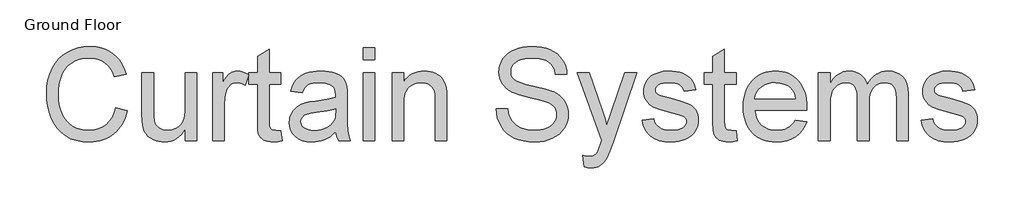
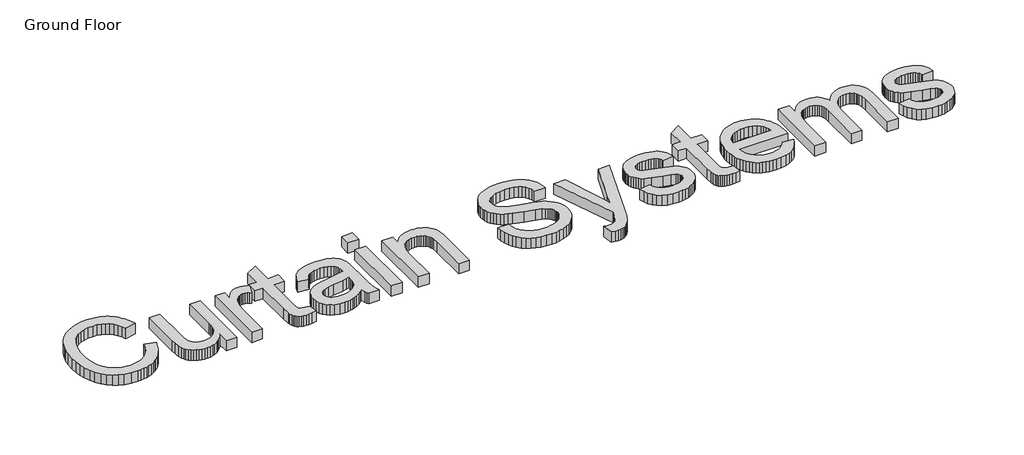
# One storey, part 3 of 8: 1 proxy.
"""IFC4 building model written with IfcOpenShell, lengths in millimetres."""

import ifcopenshell
import ifcopenshell.guid

model = None  # the IFC model being written
_history = None  # IfcOwnerHistory: only IFC2X3 demands one
_inside = {}  # id of a spatial element -> (the spatial element, [elements in it])
_under = {}  # id of a project, library or spatial element -> (it, [spatial elements below it])
_declared = {}  # id of a project -> (the project, [libraries it declares])
_typed = {}  # id of a type object -> (the type object, [elements of that type])
_made_of = {}  # id of a material, layer set ... -> (it, [elements and type objects made of it])


def new_model(schema):
    """Start an empty IFC model of exactly this schema.

    Asked for "IFC4X3", IfcOpenShell would pick the latest addendum, in which some entities
    have other attributes; the version numbers below select the first issue.
    IFC2X3 requires an IfcOwnerHistory on every rooted entity: one is made here for all.
    """
    global model, _history
    if schema == "IFC4X3":
        model = ifcopenshell.file(schema_version=(4, 3, 0, 0))
    else:
        model = ifcopenshell.file(schema=schema)
    _inside.clear()
    _under.clear()
    _declared.clear()
    _typed.clear()
    _made_of.clear()
    _history = None
    if model.schema == "IFC2X3":
        org = make("IfcOrganization", Name="unknown")
        user = make(
            "IfcPersonAndOrganization",
            ThePerson=make("IfcPerson", FamilyName="unknown"),
            TheOrganization=org,
        )
        app = make(
            "IfcApplication",
            ApplicationDeveloper=org,
            Version="unknown",
            ApplicationFullName="unknown",
            ApplicationIdentifier="unknown",
        )
        _history = make(
            "IfcOwnerHistory",
            OwningUser=user,
            OwningApplication=app,
            ChangeAction="ADDED",
            CreationDate=0,
        )
    return model


def make(cls, **values):
    """One entity of the class cls with the attributes given. An attribute that is None is left unset."""
    return model.create_entity(
        cls, **{name: value for name, value in values.items() if value is not None}
    )


def rooted(cls, **values):
    """An entity with a GlobalId (a new one), such as an element, a storey or a relation."""
    return make(cls, GlobalId=ifcopenshell.guid.new(), OwnerHistory=_history, **values)


def si_unit(unit_type, name, prefix=None):
    """IfcSIUnit, for example si_unit("LENGTHUNIT", "METRE", prefix="MILLI")."""
    return make("IfcSIUnit", UnitType=unit_type, Prefix=prefix, Name=name)


def assignment(units):
    """IfcUnitAssignment: the units of a project."""
    return None if units is None else make("IfcUnitAssignment", Units=units)


def point(xyz):
    """IfcCartesianPoint."""
    return None if xyz is None else make("IfcCartesianPoint", Coordinates=xyz)


def direction(xyz):
    """IfcDirection."""
    return None if xyz is None else make("IfcDirection", DirectionRatios=xyz)


def frame(location, z_axis=None, x_axis=None):
    """IfcAxis2Placement3D, a coordinate frame: its origin and axes. An axis left out is left unset."""
    return make(
        "IfcAxis2Placement3D",
        Location=point(location),
        Axis=direction(z_axis),
        RefDirection=direction(x_axis),
    )


def origin():
    """The frame at (0, 0, 0) with its axes left unset."""
    return frame((0.0, 0.0, 0.0))


def origin_with_axes():
    """The frame at (0, 0, 0) with the z axis (0, 0, 1) and the x axis (1, 0, 0) written out."""
    return frame((0.0, 0.0, 0.0), z_axis=(0.0, 0.0, 1.0), x_axis=(1.0, 0.0, 0.0))


def place(relative_to, where):
    """IfcLocalPlacement: puts the frame where relative to a parent placement (None: the world)."""
    return make(
        "IfcLocalPlacement", PlacementRelTo=relative_to, RelativePlacement=where
    )


def context(
    kind, dimensions, precision=None, world=None, true_north=None, identifier=None
):
    """IfcGeometricRepresentationContext, for example the 3D "Model" context."""
    return make(
        "IfcGeometricRepresentationContext",
        ContextIdentifier=identifier,
        ContextType=kind,
        CoordinateSpaceDimension=dimensions,
        Precision=precision,
        WorldCoordinateSystem=world,
        TrueNorth=true_north,
    )


def project(units=None, contexts=None):
    """IfcProject with its units and contexts."""
    return rooted(
        "IfcProject",
        Name="project",
        RepresentationContexts=contexts,
        UnitsInContext=assignment(units),
    )


def spatial(cls, under=None, at=None, **own):
    """A site, building, storey or space (cls), placed at a placement, below another one or the project."""
    s = rooted(cls, ObjectPlacement=at, **own)
    if under is not None:
        _under.setdefault(under.id(), (under, []))[1].append(s)
    return s


def polyline(points):
    """IfcPolyline through the points."""
    return make("IfcPolyline", Points=[point(p) for p in points])


def outline(outer, holes=None, kind="AREA"):
    """IfcArbitraryClosedProfileDef: a profile drawn as a closed curve; with holes, ...WithVoids."""
    if holes is None:
        return make("IfcArbitraryClosedProfileDef", ProfileType=kind, OuterCurve=outer)
    return make(
        "IfcArbitraryProfileDefWithVoids",
        ProfileType=kind,
        OuterCurve=outer,
        InnerCurves=holes,
    )


def extrude(swept, where, along, depth):
    """IfcExtrudedAreaSolid: the profile swept, set in the frame where, extruded along a direction by depth."""
    return make(
        "IfcExtrudedAreaSolid",
        SweptArea=swept,
        Position=where,
        ExtrudedDirection=direction(along),
        Depth=depth,
    )


def shape(context_of_items, identifier, shape_type, items):
    """IfcShapeRepresentation: the items that make up one representation, for example the "Body"."""
    return make(
        "IfcShapeRepresentation",
        ContextOfItems=context_of_items,
        RepresentationIdentifier=identifier,
        RepresentationType=shape_type,
        Items=items,
    )


def made_of(thing, what):
    """Note that an element or type object is made of a material, layer set ...; save() writes the relation."""
    if what is not None:
        _made_of.setdefault(what.id(), (what, []))[1].append(thing)
    return thing


def element(
    cls,
    number,
    at=None,
    inside=None,
    cuts=None,
    type_object=None,
    material=None,
    context=None,
    identifier="Body",
    shape_type=None,
    held_by="IfcProductDefinitionShape",
    body=None,
    shapes=None,
    **own,
):
    """One element of the class cls, such as IfcWall. Its Tag is "e" and its number.

    at: its placement. inside: the storey or other place that contains it. cuts: it is an
    opening in that element (IfcRelVoidsElement). A single representation is given by context,
    identifier, shape_type and body (its items); several are given by shapes. held_by: the class
    of the entity that holds the representations. save() writes the other relations.
    """
    e = rooted(cls, Tag="e%d" % number, ObjectPlacement=at, **own)
    if body is not None:
        shapes = [shape(context, identifier, shape_type, body)]
    if shapes is not None:
        e.Representation = make(held_by, Representations=shapes)
    if inside is not None:
        _inside.setdefault(inside.id(), (inside, []))[1].append(e)
    if cuts is not None:
        rooted(
            "IfcRelVoidsElement", RelatingBuildingElement=cuts, RelatedOpeningElement=e
        )
    if type_object is not None:
        _typed.setdefault(type_object.id(), (type_object, []))[1].append(e)
    return made_of(e, material)


def aggregate(whole, parts):
    """IfcRelAggregates: a whole, such as a stair, and the parts it consists of."""
    return rooted("IfcRelAggregates", RelatingObject=whole, RelatedObjects=parts)


def save(model, path):
    """Write the relations noted so far, then the file.

    IfcRelAggregates (storeys below a building ...), IfcRelContainedInSpatialStructure (elements
    in a storey), IfcRelDefinesByType, IfcRelAssociatesMaterial and IfcRelDeclares: one each for
    every whole, place, type object, material and project.
    """
    for whole, parts in _under.values():
        aggregate(whole, parts)
    for where, things in _inside.values():
        rooted(
            "IfcRelContainedInSpatialStructure",
            RelatedElements=things,
            RelatingStructure=where,
        )
    for kind, things in _typed.values():
        rooted("IfcRelDefinesByType", RelatedObjects=things, RelatingType=kind)
    for what, things in _made_of.values():
        rooted("IfcRelAssociatesMaterial", RelatedObjects=things, RelatingMaterial=what)
    for by, libraries in _declared.values():
        rooted("IfcRelDeclares", RelatingContext=by, RelatedDefinitions=libraries)
    model.write(path)


model = new_model("IFC4")

# Units and contexts
model_context = context("Model", 3, world=origin())
ifc_project = project(units=[si_unit("LENGTHUNIT", "METRE", prefix="MILLI")], contexts=[model_context])

# Site, building, storey
site = spatial("IfcSite", under=ifc_project)
building = spatial("IfcBuilding", under=site)
storey = spatial("IfcBuildingStorey", under=building, Name="Ground Floor", Elevation=0.0)

# Proxy
placement = place(None, origin())
element("IfcBuildingElementProxy", 1, Name="1200mm Arial", ObjectType="1200mm Arial", at=placement, inside=storey, context=model_context, shape_type="SweptSolid", body=[
    extrude(outline(polyline([(-73278.3441207, -15688.8792454), (-73131.4350298, -15726.7542454), (-73160.5048096, -15818.1151296), (-73178.6577304, -15859.4714196), (-73199.2226718, -15897.9449414), (-73222.1996338, -15933.5356952), (-73247.5886164, -15966.2436808), (-73275.3896196, -15996.0688983), (-73305.6026434, -16023.0113477), (-73337.9004062, -16046.9185964), (-73371.9556264, -16067.638212), (-73407.7683039, -16085.1701945), (-73445.3384389, -16099.5145437), (-73484.6660312, -16110.6712598), (-73525.7510809, -16118.6403427), (-73568.593588, -16123.4217925), (-73613.1935525, -16125.0156091), (-73702.7790461, -16120.1915679), (-73783.595186, -16105.7194443), (-73855.6419722, -16081.5992383), (-73918.9194048, -16047.83095), (-73974.2972457, -16004.9167099), (-74022.645257, -15953.3586488), (-74063.9634389, -15893.1567667), (-74098.2517911, -15824.3110636), (-74125.1785489, -15749.7984571), (-74144.4119474, -15672.5958647), (-74155.9519864, -15592.7032866), (-74159.7986661, -15510.1207227), (-74155.4498558, -15421.5125906), (-74142.4034247, -15338.7506943), (-74120.6593728, -15261.8350338), (-74090.2177002, -15190.7656091), (-74051.75987, -15126.7170473), (-74005.9673451, -15070.8639755), (-73952.8401256, -15023.2063939), (-73892.3782116, -14983.7443022), (-73826.6349587, -14952.800499), (-73757.663723, -14930.6977823), (-73685.4645042, -14917.4361524), (-73610.0373025, -14913.0156091), (-73526.0111129, -14918.7363122), (-73448.9609531, -14935.8984216), (-73413.0518844, -14948.7700036), (-73378.8868231, -14964.5019372), (-73346.4657693, -14983.0942223), (-73315.788723, -15004.5468591), (-73287.115716, -15028.5953321), (-73260.7067805, -15054.9751261), (-73236.5619163, -15083.6862412), (-73214.6811235, -15114.7286772), (-73177.7117521, -15183.8075125), (-73149.7986661, -15262.2116318), (-73296.707757, -15297.2173136), (-73319.8416349, -15239.4453853), (-73347.6381548, -15190.084146), (-73380.0973167, -15149.1335956), (-73417.2191207, -15116.5937341), (-73459.2187656, -15091.8010316), (-73506.3114502, -15074.0919585), (-73558.4971747, -15063.4665146), (-73615.7759389, -15059.9247), (-73681.6805908, -15063.8520792), (-73741.9542059, -15075.634217), (-73796.596784, -15095.2711133), (-73845.6083252, -15122.7627681), (-73888.3701328, -15156.871788), (-73924.2635099, -15196.3607795), (-73953.2884566, -15241.2297426), (-73975.444973, -15291.4786772), (-73991.8269864, -15344.8300622), (-74003.5284247, -15399.0063761), (-74010.5492876, -15454.007619), (-74012.8895752, -15509.8337909), (-74010.1188899, -15579.9886204), (-74001.8068337, -15645.5525409), (-73987.9534069, -15706.5255522), (-73968.5586093, -15762.9076545), (-73943.3086093, -15813.5780203), (-73911.8895752, -15857.4158221), (-73874.301507, -15894.42106), (-73830.5444048, -15924.5937341), (-73782.7433572, -15948.0055771), (-73733.0234531, -15964.7283221), (-73681.3846924, -15974.7619691), (-73627.8270752, -15978.1065181), (-73563.9578458, -15973.5514755), (-73505.1995894, -15959.8863477), (-73451.552306, -15937.1111346), (-73403.0159957, -15905.2258363), (-73360.7383856, -15864.3739187), (-73325.8672031, -15814.6988477), (-73298.4024481, -15756.2006233), (-73278.3441207, -15688.8792454)])), origin_with_axes(), (0.0, 0.0, 1.0), 150.0),
    extrude(outline(polyline([(-72396.8895752, -16106.6519727), (-72396.8895752, -15958.3082227), (-72422.3727073, -15997.3802664), (-72450.0436945, -16031.2427042), (-72479.9025369, -16059.8955363), (-72511.9492343, -16083.3387625), (-72546.1837869, -16101.5723828), (-72582.6061945, -16114.5963974), (-72621.2164573, -16122.4108061), (-72662.0145752, -16125.0156091), (-72698.410083, -16123.1864187), (-72733.5681974, -16117.6988477), (-72767.4889183, -16108.552896), (-72800.1722457, -16095.7485636), (-72830.1745539, -16080.1825125), (-72856.0522173, -16062.7514045), (-72877.8052357, -16043.4552397), (-72895.4336093, -16022.2940181), (-72909.8429666, -15998.9628747), (-72921.938936, -15973.1569443), (-72939.1907116, -15914.1207227), (-72945.6466775, -15858.45595), (-72947.7986661, -15777.5411772), (-72947.7986661, -15243.5610636), (-72800.8895752, -15243.5610636), (-72800.8895752, -15708.3906091), (-72798.6658536, -15801.3565181), (-72791.9946889, -15858.1690181), (-72783.1984353, -15884.647445), (-72770.5824019, -15908.131021), (-72754.1465887, -15928.6197461), (-72733.8909957, -15946.1136204), (-72710.4253529, -15960.1105132), (-72684.3593906, -15970.1082937), (-72655.6931086, -15976.106962), (-72624.426507, -15978.1065181), (-72592.2273771, -15976.0621289), (-72561.0504417, -15969.9289613), (-72530.8957009, -15959.7070153), (-72501.7631548, -15945.3962909), (-72475.2309282, -15927.561685), (-72452.8771462, -15906.7680948), (-72434.7018089, -15883.0155203), (-72420.7049161, -15856.3039613), (-72410.2857045, -15824.9297603), (-72402.8434105, -15787.1892596), (-72398.378034, -15743.0824592), (-72396.8895752, -15692.6093591), (-72396.8895752, -15243.5610636), (-72249.9804843, -15243.5610636), (-72249.9804843, -16106.6519727), (-72396.8895752, -16106.6519727)])), origin_with_axes(), (0.0, 0.0, 1.0), 150.0),
    extrude(outline(polyline([(-72047.9804843, -16106.6519727), (-72047.9804843, -15243.5610636), (-71919.4350298, -15243.5610636), (-71919.4350298, -15371.2457227), (-71895.2251576, -15330.4296716), (-71871.9478139, -15297.2173136), (-71849.6029985, -15271.6086488), (-71828.1907116, -15253.6036772), (-71806.7425582, -15241.1759429), (-71784.2901434, -15232.2989897), (-71760.8334673, -15226.9728179), (-71736.3725298, -15225.1974272), (-71699.9321889, -15228.0308789), (-71663.2049161, -15236.5312341), (-71626.1907116, -15250.6984926), (-71588.8895752, -15270.5326545), (-71637.9549161, -15402.2343591), (-71663.7787798, -15389.0534287), (-71689.6026434, -15379.6384784), (-71715.426507, -15373.9895082), (-71741.2503707, -15372.1065181), (-71763.7655518, -15373.9177752), (-71785.1150724, -15379.3515466), (-71805.2989325, -15388.4078321), (-71824.317132, -15401.0866318), (-71841.4523416, -15416.9754812), (-71855.9872315, -15435.6619159), (-71867.9218018, -15457.1459358), (-71877.2560525, -15481.4275409), (-71887.6752641, -15521.5262625), (-71895.1175582, -15563.4900409), (-71901.0713934, -15653.0127681), (-71901.0713934, -16106.6519727), (-72047.9804843, -16106.6519727)])), origin_with_axes(), (0.0, 0.0, 1.0), 150.0),
    extrude(outline(polyline([(-71184.8895752, -15984.1320863), (-71166.5259389, -16110.95595), (-71224.701365, -16121.5006943), (-71276.4208252, -16125.0156091), (-71313.9192272, -16123.4912838), (-71346.9343195, -16118.9183079), (-71375.4661022, -16111.2966815), (-71399.5145752, -16100.6264045), (-71419.7074019, -16087.4813406), (-71436.6722457, -16072.4353534), (-71450.4091065, -16055.4884429), (-71460.9179843, -16036.6406091), (-71468.7010099, -16011.3726758), (-71474.2603139, -15975.165467), (-71478.707757, -15869.9332227), (-71478.707757, -15390.4701545), (-71588.8895752, -15390.4701545), (-71588.8895752, -15243.5610636), (-71478.707757, -15243.5610636), (-71478.707757, -15033.8139045), (-71331.7986661, -14947.4474272), (-71331.7986661, -15243.5610636), (-71184.8895752, -15243.5610636), (-71184.8895752, -15390.4701545), (-71331.7986661, -15390.4701545), (-71331.7986661, -15865.6292454), (-71329.8618764, -15913.9772568), (-71324.051507, -15941.3792454), (-71313.901294, -15956.5507653), (-71298.944973, -15968.2073704), (-71277.7478849, -15975.6317312), (-71248.8753707, -15978.1065181), (-71184.8895752, -15984.1320863)])), origin_with_axes(), (0.0, 0.0, 1.0), 150.0),
    extrude(outline(polyline([(-70487.0713934, -15996.4701545), (-70521.9067095, -16029.1624485), (-70557.2620894, -16056.6541034), (-70593.1375333, -16078.945119), (-70629.5330411, -16096.0354954), (-70666.8610774, -16108.7142951), (-70705.5341065, -16117.7705806), (-70745.5521285, -16123.2043519), (-70786.9151434, -16125.0156091), (-70852.3266313, -16120.6578321), (-70909.6860951, -16107.5845011), (-70958.9935347, -16085.7956162), (-71000.2489502, -16055.2911772), (-71032.8246782, -16018.0079741), (-71056.0930553, -15975.8827966), (-71070.0540816, -15928.9156446), (-71074.707757, -15877.1065181), (-71072.9502997, -15845.9564826), (-71067.6779275, -15816.2052397), (-71058.8906406, -15787.8527894), (-71046.5884389, -15760.8991318), (-71031.4258856, -15735.9360636), (-71014.057544, -15713.5553818), (-70994.483414, -15693.7570863), (-70972.7034957, -15676.5411772), (-70924.104419, -15648.565325), (-70869.8384389, -15628.3366318), (-70816.9712514, -15617.0745579), (-70742.7276434, -15606.2428818), (-70592.5188366, -15583.0014045), (-70534.5227428, -15569.8742738), (-70487.9321889, -15555.7428818), (-70487.0713934, -15523.0326545), (-70489.5999801, -15487.4172426), (-70497.18574, -15457.4687341), (-70509.8286732, -15433.1871289), (-70527.5287798, -15414.5724272), (-70558.1228849, -15395.993592), (-70595.3881548, -15382.7229954), (-70639.3245894, -15374.7606375), (-70689.9321889, -15372.1065181), (-70736.989007, -15373.8729421), (-70777.4463934, -15379.1722142), (-70811.304348, -15388.0043342), (-70838.5628707, -15400.3693022), (-70860.9614857, -15417.2355132), (-70880.2397173, -15439.5713619), (-70896.3975653, -15467.3768484), (-70909.4350298, -15500.6519727), (-71056.3441207, -15482.2883363), (-71045.1627464, -15439.9658931), (-71030.8430553, -15401.9474272), (-71013.3850475, -15368.2329386), (-70992.788723, -15338.8224272), (-70968.1663863, -15313.1240963), (-70938.6303423, -15290.5461488), (-70904.1805908, -15271.0885849), (-70864.817132, -15254.7514045), (-70821.337995, -15241.8215394), (-70774.5412087, -15232.5859216), (-70724.4267734, -15227.0445508), (-70670.9946889, -15225.1974272), (-70618.7641313, -15226.8293519), (-70571.6804133, -15231.7251261), (-70529.7435347, -15239.8847497), (-70492.9534957, -15251.3082227), (-70461.005431, -15265.197516), (-70433.5944758, -15280.7546005), (-70410.7206299, -15297.9794762), (-70392.3838934, -15316.8721431), (-70377.5172386, -15337.8988654), (-70365.0536377, -15361.5259073), (-70347.335598, -15416.58095), (-70341.9556264, -15467.3678818), (-70340.1623025, -15545.1264045), (-70340.1623025, -15727.9019727), (-70338.2972457, -15887.1132653), (-70332.7020752, -15983.127825), (-70321.6552002, -16046.2169585), (-70303.4350298, -16106.6519727), (-70450.3441207, -16106.6519727), (-70463.3995184, -16082.1193022), (-70473.8725298, -16055.5781091), (-70487.0713934, -15996.4701545)]), holes=[polyline([(-70487.0713934, -15702.6519727), (-70531.4740923, -15715.3666389), (-70585.7759389, -15727.1129102), (-70724.0770752, -15747.7002681), (-70800.2933394, -15758.962342), (-70850.4705411, -15771.5156091), (-70883.3601008, -15787.7989897), (-70907.7134389, -15810.2514045), (-70922.7773593, -15837.1512625), (-70927.7986661, -15866.7769727), (-70925.0638472, -15889.6059855), (-70916.8593906, -15910.462342), (-70903.1852961, -15929.3460423), (-70884.0415639, -15946.2570863), (-70859.6075262, -15960.1912127), (-70830.0625156, -15970.1441602), (-70795.4065319, -15976.1159287), (-70755.6395752, -15978.1065181), (-70715.038723, -15975.9096964), (-70676.7333252, -15969.3192312), (-70640.723382, -15958.3351225), (-70607.0088934, -15942.9573704), (-70576.5941207, -15924.4592348), (-70550.4833252, -15904.1139755), (-70528.676507, -15881.9215927), (-70511.1736661, -15857.8820863), (-70501.0055198, -15836.3622), (-70493.7425582, -15810.2514045), (-70489.3847812, -15779.5497), (-70487.9321889, -15744.2570863), (-70487.0713934, -15702.6519727)])]), origin_with_axes(), (0.0, 0.0, 1.0), 150.0),
    extrude(outline(polyline([(-70138.1623025, -16106.6519727), (-70138.1623025, -15243.5610636), (-69991.2532116, -15243.5610636), (-69991.2532116, -16106.6519727), (-70138.1623025, -16106.6519727)])), origin_with_axes(), (0.0, 0.0, 1.0), 150.0),
    extrude(outline(polyline([(-70138.1623025, -15078.2883363), (-70138.1623025, -14931.3792454), (-69991.2532116, -14931.3792454), (-69991.2532116, -15078.2883363), (-70138.1623025, -15078.2883363)])), origin_with_axes(), (0.0, 0.0, 1.0), 150.0),
    extrude(outline(polyline([(-69770.8895752, -16106.6519727), (-69770.8895752, -15243.5610636), (-69623.9804843, -15243.5610636), (-69623.9804843, -15364.0724272), (-69599.7437123, -15331.5235991), (-69572.9424872, -15303.3146147), (-69543.5768089, -15279.4454741), (-69511.6466775, -15259.9161772), (-69477.152093, -15244.7267241), (-69440.0930553, -15233.8771147), (-69400.4695646, -15227.3673491), (-69358.2816207, -15225.1974272), (-69321.3122492, -15226.945918), (-69285.8672031, -15232.1913903), (-69251.9464822, -15240.9338441), (-69219.5500866, -15253.1732795), (-69189.9064431, -15268.2551332), (-69164.2439786, -15285.524842), (-69142.5626931, -15304.9824059), (-69124.8625866, -15326.627825), (-69098.142061, -15376.3746289), (-69080.8185525, -15434.6576545), (-69075.0081832, -15490.3941602), (-69073.0713934, -15576.6889045), (-69073.0713934, -16106.6519727), (-69219.9804843, -16106.6519727), (-69219.9804843, -15596.4872), (-69224.2127286, -15520.5220011), (-69229.503034, -15490.7707582), (-69236.9094616, -15466.5070863), (-69246.9969083, -15446.0721609), (-69260.3302712, -15427.8071573), (-69276.9095504, -15411.7120757), (-69296.7347457, -15397.7869159), (-69319.1243941, -15386.5517419), (-69343.3970326, -15378.5266176), (-69369.5526612, -15373.711543), (-69397.5912798, -15372.1065181), (-69442.2002109, -15375.7110991), (-69483.6349587, -15386.524842), (-69521.8955234, -15404.5477468), (-69556.9819048, -15429.7798136), (-69572.6846969, -15445.8166122), (-69586.2937833, -15465.0903605), (-69597.8091642, -15487.6010583), (-69607.2308394, -15513.3487056), (-69619.7930731, -15574.5548491), (-69623.9804843, -15648.7087909), (-69623.9804843, -16106.6519727), (-69770.8895752, -16106.6519727)])), origin_with_axes(), (0.0, 0.0, 1.0), 150.0),
    extrude(outline(polyline([(-68448.707757, -15702.6519727), (-68301.7986661, -15702.6519727), (-68295.0737016, -15745.4137802), (-68284.9414218, -15784.1764755), (-68271.4018266, -15818.9400586), (-68254.4549161, -15849.7045295), (-68233.2398948, -15877.0885849), (-68206.8959673, -15901.7109216), (-68175.4231335, -15923.5715394), (-68138.8213934, -15942.6704386), (-68098.43574, -15958.1737234), (-68055.6111661, -15969.2474983), (-68010.3476718, -15975.8917632), (-67962.645257, -15978.1065181), (-67920.4483465, -15976.4297603), (-67880.7979559, -15971.3994869), (-67843.6940852, -15963.0156978), (-67809.1367343, -15951.2783931), (-67777.9777322, -15936.6090039), (-67751.0689076, -15919.4289613), (-67728.4102606, -15899.7382653), (-67710.0017911, -15877.5369159), (-67695.753833, -15853.7843413), (-67685.5767201, -15829.4399698), (-67679.4704524, -15804.5038015), (-67677.4350298, -15778.9758363), (-67678.9593551, -15753.5554706), (-67683.5323309, -15729.802896), (-67691.1539573, -15707.7181126), (-67701.8242343, -15687.3011204), (-67717.2109531, -15668.44432), (-67738.9819048, -15651.0401119), (-67767.1370894, -15635.0884961), (-67801.676507, -15620.5894727), (-67879.2556974, -15597.5273278), (-68015.5841775, -15564.4943022), (-68156.001436, -15527.3724983), (-68207.2456654, -15509.4840927), (-68245.8469616, -15492.0440181), (-68285.0759211, -15468.6411417), (-68318.9787087, -15442.6200125), (-68347.5553245, -15413.9806304), (-68370.8057684, -15382.7229954), (-68388.8197066, -15349.1699059), (-68401.6868053, -15313.6441602), (-68409.4070646, -15276.1457582), (-68411.9804843, -15236.6747), (-68408.7973345, -15192.9265643), (-68399.2478849, -15150.631021), (-68383.3321356, -15109.78807), (-68361.0500866, -15070.3977113), (-68332.6528032, -15034.0649698), (-68298.3913508, -15002.3948704), (-68258.2657293, -14975.387413), (-68212.2759389, -14953.0425977), (-68161.9732045, -14935.5307902), (-68108.9087514, -14923.0223562), (-68053.0825795, -14915.5172958), (-67994.4946889, -14913.0156091), (-67930.5806264, -14915.6338619), (-67870.5401434, -14923.4886204), (-67814.37324, -14936.5798846), (-67762.0799161, -14954.9076545), (-67714.6285667, -14978.3105309), (-67672.9875866, -15006.6271147), (-67637.1569758, -15039.8574059), (-67607.1367343, -15078.0014045), (-67583.1599943, -15119.9472497), (-67565.4598877, -15164.5830806), (-67554.0364147, -15211.9088974), (-67548.8895752, -15261.9247), (-67695.7986661, -15261.9247), (-67705.6260809, -15215.0472142), (-67722.770257, -15174.2670295), (-67747.2311945, -15139.584146), (-67779.0088934, -15110.9985636), (-67818.6951505, -15088.6537483), (-67866.8817627, -15072.6931659), (-67923.5687301, -15063.1168164), (-67988.7560525, -15059.9247), (-68056.0236306, -15063.08095), (-68113.4996605, -15072.5497), (-68161.184142, -15088.33095), (-68199.0770752, -15110.4247), (-68227.9495894, -15136.9838264), (-68248.5728139, -15166.1612056), (-68260.9467485, -15197.9568377), (-68265.0713934, -15232.3707227), (-68262.1482755, -15261.9784997), (-68253.3789218, -15288.8245579), (-68238.7633323, -15312.9088974), (-68218.301507, -15334.2315181), (-68186.0934105, -15354.4243448), (-68135.3782116, -15374.8323704), (-68066.1559105, -15395.4555948), (-67978.426507, -15416.2940181), (-67816.4534957, -15455.6754102), (-67759.4616633, -15473.4831162), (-67718.4662798, -15490.0354954), (-67673.4269509, -15515.1240963), (-67634.7180553, -15543.3330806), (-67602.339593, -15574.6624485), (-67576.2915639, -15609.1122), (-67556.2691029, -15646.5030025), (-67541.9673451, -15686.6555238), (-67533.3862904, -15729.5697639), (-67530.5259389, -15775.2457227), (-67533.8166881, -15821.1996467), (-67543.688936, -15865.8085778), (-67560.1426825, -15909.072516), (-67583.1779275, -15950.9914613), (-67612.3911732, -15989.9424556), (-67647.3789218, -16024.3025409), (-67688.1411732, -16054.071717), (-67734.6779275, -16079.2499841), (-67785.6352251, -16099.272445), (-67839.6591065, -16113.5742028), (-67896.7495717, -16122.1552575), (-67956.9066207, -16125.0156091), (-68032.0558572, -16121.931092), (-68100.838794, -16112.6775409), (-68163.255431, -16097.2549556), (-68219.3057684, -16075.6633363), (-68269.3305376, -16047.8668164), (-68313.6704701, -16013.8295295), (-68352.325566, -15973.5514755), (-68385.2958252, -15927.0326545), (-68411.8549516, -15875.7794585), (-68431.2766491, -15821.2982795), (-68443.5609176, -15763.5891176), (-68448.707757, -15702.6519727)])), origin_with_axes(), (0.0, 0.0, 1.0), 150.0),
    extrude(outline(polyline([(-67328.5259389, -16437.1974272), (-67346.8895752, -16295.7400409), (-67306.8625866, -16305.4239897), (-67272.2873025, -16308.6519727), (-67233.0493764, -16304.5990608), (-67202.5628707, -16292.440325), (-67178.8192627, -16273.0365608), (-67159.8100298, -16247.2485636), (-67143.598382, -16209.3018306), (-67119.6395752, -16139.0752681), (-67108.1623025, -16103.4957227), (-67420.3441207, -15243.5610636), (-67265.4009389, -15243.5610636), (-67099.8412798, -15722.7372), (-67069.3547741, -15816.2769727), (-67042.1679843, -15914.4076545), (-66984.4946889, -15745.1178818), (-66814.3441207, -15243.5610636), (-66660.5486661, -15243.5610636), (-66960.9662798, -16127.3110636), (-67005.5841775, -16244.8096431), (-67039.0117343, -16318.9815181), (-67058.3258323, -16351.9248775), (-67078.96699, -16380.1697284), (-67100.9352073, -16403.7160707), (-67124.2304843, -16422.5639045), (-67149.3549516, -16437.0001616), (-67176.81074, -16447.3117738), (-67206.5978494, -16453.4987412), (-67238.7162798, -16455.5610636), (-67281.2539218, -16450.9701545), (-67328.5259389, -16437.1974272)])), origin_with_axes(), (0.0, 0.0, 1.0), 150.0),
    extrude(outline(polyline([(-66593.9804843, -15849.5610636), (-66447.0713934, -15831.1974272), (-66438.1944403, -15864.696717), (-66423.9016491, -15894.0354954), (-66404.1930198, -15919.2137625), (-66379.0685525, -15940.2315181), (-66348.4565141, -15956.8018306), (-66312.2851718, -15968.6377681), (-66270.5545255, -15975.7393306), (-66223.2645752, -15978.1065181), (-66176.0284247, -15975.9365963), (-66135.319973, -15969.4268306), (-66101.1392201, -15958.5772213), (-66073.4861661, -15943.3877681), (-66052.1456122, -15925.2751971), (-66036.9023593, -15905.6562341), (-66027.7564076, -15884.5308789), (-66024.707757, -15861.8991318), (-66027.7743408, -15842.0649698), (-66036.9740923, -15824.4545295), (-66052.3070113, -15809.0678108), (-66073.773098, -15795.9048136), (-66128.7922741, -15777.2542454), (-66224.9861661, -15754.0127681), (-66359.0550582, -15715.2411062), (-66446.210598, -15682.1363477), (-66476.1322066, -15665.5391353), (-66502.198169, -15646.0188051), (-66524.408485, -15623.5753569), (-66542.7631548, -15598.2087909), (-66557.1366455, -15570.6812696), (-66567.4034247, -15541.7549556), (-66573.5634921, -15511.4298491), (-66575.616848, -15479.70595), (-66573.96699, -15450.6989365), (-66569.0174161, -15422.7858505), (-66560.7681264, -15395.9666921), (-66549.2191207, -15370.2414613), (-66534.8187301, -15346.130222), (-66518.0152855, -15324.153038), (-66498.8087869, -15304.3099095), (-66477.1992343, -15286.6008363), (-66436.6342485, -15262.9648278), (-66383.8029275, -15243.1306659), (-66322.7223167, -15229.6807369), (-66257.4094616, -15225.1974272), (-66208.0392556, -15226.9997177), (-66161.7894332, -15232.4065892), (-66118.6599943, -15241.4180416), (-66078.6509389, -15254.034075), (-66042.7127286, -15269.7256588), (-66011.7958252, -15287.9637625), (-65985.9002286, -15308.748386), (-65965.0259389, -15332.0795295), (-65948.0969616, -15358.7731552), (-65934.0373025, -15389.6452255), (-65922.8469616, -15424.6957404), (-65914.5259389, -15463.9247), (-66061.4350298, -15482.2883363), (-66068.4379595, -15457.7466993), (-66079.9779985, -15436.0564471), (-66096.055147, -15417.2175799), (-66116.6694048, -15401.2300977), (-66141.9104381, -15388.4885316), (-66171.8679133, -15379.387413), (-66206.5418302, -15373.9267419), (-66245.9321889, -15372.1065181), (-66291.6260809, -15373.8460423), (-66330.2901434, -15379.0646147), (-66361.9243764, -15387.7622355), (-66386.5287798, -15399.9389045), (-66404.9820823, -15414.4289613), (-66418.1630127, -15430.0667454), (-66426.071571, -15446.8522568), (-66428.707757, -15464.7854954), (-66424.3320468, -15487.3813761), (-66411.2049161, -15507.5383363), (-66388.7525014, -15525.5433079), (-66356.4009389, -15539.9616318), (-66229.864007, -15571.2372), (-66100.0632258, -15609.6143306), (-66014.2347457, -15640.3877681), (-65984.0351718, -15655.3978889), (-65957.2787798, -15673.4566602), (-65933.9655695, -15694.5640821), (-65914.0955411, -15718.7201545), (-65898.2156583, -15745.960744), (-65886.8728849, -15776.321717), (-65880.0672208, -15809.8030735), (-65877.7986661, -15846.4048136), (-65880.4617521, -15883.1679528), (-65888.4510099, -15918.8550977), (-65901.7664396, -15953.4662483), (-65920.4080411, -15987.0014045), (-65944.0709495, -16018.1245402), (-65972.4502997, -16045.4996289), (-66005.5460916, -16069.1266708), (-66043.3583252, -16089.0056659), (-66084.8558394, -16104.760016), (-66129.007473, -16116.0131233), (-66175.8132258, -16122.7649876), (-66225.273098, -16125.0156091), (-66304.3407471, -16120.6757653), (-66373.4016491, -16107.6562341), (-66432.4558039, -16085.9570153), (-66481.5032116, -16055.5781091), (-66521.5660667, -16016.6629812), (-66553.6665639, -15969.3550977), (-66577.8047031, -15913.6544585), (-66593.9804843, -15849.5610636)])), origin_with_axes(), (0.0, 0.0, 1.0), 150.0),
    extrude(outline(polyline([(-65400.3441207, -15984.1320863), (-65381.9804843, -16110.95595), (-65440.1559105, -16121.5006943), (-65491.8753707, -16125.0156091), (-65529.3737727, -16123.4912838), (-65562.388865, -16118.9183079), (-65590.9206477, -16111.2966815), (-65614.9691207, -16100.6264045), (-65635.1619474, -16087.4813406), (-65652.1267911, -16072.4353534), (-65665.8636519, -16055.4884429), (-65676.3725298, -16036.6406091), (-65684.1555553, -16011.3726758), (-65689.7148593, -15975.165467), (-65694.1623025, -15869.9332227), (-65694.1623025, -15390.4701545), (-65804.3441207, -15390.4701545), (-65804.3441207, -15243.5610636), (-65694.1623025, -15243.5610636), (-65694.1623025, -15033.8139045), (-65547.2532116, -14947.4474272), (-65547.2532116, -15243.5610636), (-65400.3441207, -15243.5610636), (-65400.3441207, -15390.4701545), (-65547.2532116, -15390.4701545), (-65547.2532116, -15865.6292454), (-65545.3164218, -15913.9772568), (-65539.5060525, -15941.3792454), (-65529.3558394, -15956.5507653), (-65514.3995184, -15968.2073704), (-65493.2024303, -15975.6317312), (-65464.3299161, -15978.1065181), (-65400.3441207, -15984.1320863)])), origin_with_axes(), (0.0, 0.0, 1.0), 150.0),
    extrude(outline(polyline([(-64649.1566207, -15849.5610636), (-64505.116848, -15867.9247), (-64527.2016313, -15925.6159287), (-64557.0156406, -15976.4566602), (-64594.5588756, -16020.4468946), (-64639.8313366, -16057.5866318), (-64692.3667592, -16087.0868093), (-64751.6988792, -16108.1583647), (-64817.8276967, -16120.801298), (-64890.7532116, -16125.0156091), (-64937.5724144, -16123.197627), (-64981.9078636, -16117.7436808), (-65023.7595592, -16108.6537705), (-65063.1275014, -16095.927896), (-65100.0116899, -16079.5660574), (-65134.4121249, -16059.5682546), (-65166.3288064, -16035.9344878), (-65195.7617343, -16008.6647568), (-65222.1908448, -15978.1132431), (-65245.0960738, -15944.6341282), (-65264.4774215, -15908.2274121), (-65280.3348877, -15868.8930948), (-65292.6684726, -15826.6311763), (-65301.4781761, -15781.4416566), (-65306.7639982, -15733.3245357), (-65308.5259389, -15682.2798136), (-65306.7460649, -15629.497809), (-65301.4064431, -15579.7554883), (-65292.5070734, -15533.0528516), (-65280.0479559, -15489.3898988), (-65264.0290905, -15448.76663), (-65244.4504772, -15411.1830451), (-65221.3121161, -15376.6391442), (-65194.614007, -15345.1349272), (-65165.077963, -15317.0245757), (-65133.4257968, -15292.662271), (-65099.6575085, -15272.0480132), (-65063.773098, -15255.1818022), (-65025.7725653, -15242.0636382), (-64985.6559105, -15232.693521), (-64943.4231335, -15227.0714507), (-64899.0742343, -15225.1974272), (-64856.1756858, -15227.0669674), (-64815.2811768, -15232.6755877), (-64776.3907071, -15242.0232884), (-64739.5042769, -15255.1100693), (-64704.6218861, -15271.9359304), (-64671.7435347, -15292.5008718), (-64640.8692228, -15316.8048935), (-64611.9989502, -15344.8479954), (-64585.8724632, -15376.2804794), (-64563.2295078, -15410.7526474), (-64544.0700839, -15448.2644993), (-64528.3941917, -15488.8160352), (-64516.2018311, -15532.407255), (-64507.4930021, -15579.0381588), (-64502.2677047, -15628.7087465), (-64500.5259389, -15681.4190181), (-64501.3867343, -15721.0156091), (-65161.616848, -15721.0156091), (-65153.1075262, -15779.6393662), (-65136.1875156, -15830.9822284), (-65110.856816, -15875.0441957), (-65077.1154275, -15911.8252681), (-65036.8284069, -15940.823315), (-64991.860811, -15961.5362056), (-64942.2126399, -15973.96394), (-64887.8838934, -15978.1065181), (-64847.2471747, -15976.1876616), (-64809.694973, -15970.431092), (-64775.2272883, -15960.8368093), (-64743.8441207, -15947.4048136), (-64715.5454701, -15929.77644), (-64690.3313366, -15907.5930238), (-64668.2017201, -15880.854565), (-64649.1566207, -15849.5610636)]), holes=[polyline([(-65161.616848, -15574.1065181), (-64647.4350298, -15574.1065181), (-64654.9849232, -15532.537271), (-64667.3050582, -15496.4914613), (-64684.3954346, -15465.9690892), (-64706.2560525, -15440.9701545), (-64746.3189076, -15410.8423136), (-64791.9052002, -15389.3224272), (-64843.0149303, -15376.4104954), (-64899.648098, -15372.1065181), (-64951.3047918, -15375.5407333), (-64998.6754417, -15385.8433789), (-65041.7600475, -15403.0144549), (-65080.5586093, -15427.0539613), (-65113.1164041, -15456.8500373), (-65137.4787087, -15491.2908221), (-65153.6455234, -15530.3763157), (-65161.616848, -15574.1065181)])]), origin_with_axes(), (0.0, 0.0, 1.0), 150.0),
    extrude(outline(polyline([(-64353.616848, -16106.6519727), (-64353.616848, -15243.5610636), (-64206.707757, -15243.5610636), (-64206.707757, -15385.5923136), (-64186.192132, -15351.2053285), (-64162.520257, -15320.3511914), (-64135.692132, -15293.0299024), (-64105.707757, -15269.2414613), (-64073.0513295, -15249.9721964), (-64038.2070468, -15236.2084358), (-64001.174909, -15227.9501794), (-63961.9549161, -15225.1974272), (-63919.0765426, -15228.0039791), (-63880.2510809, -15236.4236346), (-63845.4785312, -15250.4563939), (-63814.7588934, -15270.1022568), (-63788.1818337, -15294.805293), (-63765.8370184, -15324.0095721), (-63747.7244474, -15357.7150941), (-63733.8441207, -15395.9218591), (-63708.0112904, -15355.9083203), (-63680.2954701, -15321.2299201), (-63650.6966597, -15291.8866584), (-63619.2148593, -15267.8785352), (-63585.8500688, -15249.2055505), (-63550.6022883, -15235.8677042), (-63513.4715177, -15227.8649965), (-63474.457757, -15225.1974272), (-63415.6457009, -15229.6359038), (-63364.0248735, -15242.9513335), (-63319.5952748, -15265.1437163), (-63282.3569048, -15296.2130522), (-63252.9194935, -15336.5180061), (-63231.8927712, -15386.4172426), (-63219.2767379, -15445.9107618), (-63215.0713934, -15514.9985636), (-63215.0713934, -16106.6519727), (-63361.9804843, -16106.6519727), (-63361.9804843, -15578.1235636), (-63365.3877997, -15504.8483505), (-63375.6097457, -15455.4602113), (-63383.8052357, -15437.6435387), (-63394.7624445, -15421.6381233), (-63408.4813721, -15407.4439649), (-63424.9620184, -15395.0610636), (-63443.60362, -15385.01845), (-63463.8054133, -15377.8451545), (-63508.8895752, -15372.1065181), (-63550.5215887, -15375.7828321), (-63588.4772883, -15386.8117738), (-63622.7566739, -15405.1933434), (-63653.3597457, -15430.9275409), (-63678.5290461, -15464.7675622), (-63696.5071178, -15507.4666034), (-63707.2939609, -15559.0246644), (-63710.8895752, -15619.4417454), (-63710.8895752, -16106.6519727), (-63857.7986661, -16106.6519727), (-63857.7986661, -15561.76845), (-63859.9237549, -15517.2581517), (-63866.2990212, -15478.7016886), (-63876.9244651, -15446.0990608), (-63891.8000866, -15419.4502681), (-63911.5176825, -15398.7373775), (-63936.6690497, -15383.9424556), (-63967.2541881, -15375.0655025), (-64003.273098, -15372.1065181), (-64032.1276789, -15374.0791744), (-64059.8703991, -15379.9971431), (-64086.5012585, -15389.8604244), (-64112.020257, -15403.6690181), (-64135.2617343, -15421.2794585), (-64155.0600298, -15442.5482795), (-64171.4151434, -15467.4754812), (-64184.3270752, -15496.0610636), (-64194.1186235, -15529.8293519), (-64201.1125866, -15570.3046716), (-64206.707757, -15671.3764045), (-64206.707757, -16106.6519727), (-64353.616848, -16106.6519727)])), origin_with_axes(), (0.0, 0.0, 1.0), 150.0),
    extrude(outline(polyline([(-63049.7986661, -15849.5610636), (-62902.8895752, -15831.1974272), (-62894.0126221, -15864.696717), (-62879.7198309, -15894.0354954), (-62860.0112016, -15919.2137625), (-62834.8867343, -15940.2315181), (-62804.274696, -15956.8018306), (-62768.1033536, -15968.6377681), (-62726.3727073, -15975.7393306), (-62679.082757, -15978.1065181), (-62631.8466065, -15975.9365963), (-62591.1381548, -15969.4268306), (-62556.9574019, -15958.5772213), (-62529.304348, -15943.3877681), (-62507.963794, -15925.2751971), (-62492.7205411, -15905.6562341), (-62483.5745894, -15884.5308789), (-62480.5259389, -15861.8991318), (-62483.5925227, -15842.0649698), (-62492.7922741, -15824.4545295), (-62508.1251931, -15809.0678108), (-62529.5912798, -15795.9048136), (-62584.6104559, -15777.2542454), (-62680.804348, -15754.0127681), (-62814.87324, -15715.2411062), (-62902.0287798, -15682.1363477), (-62931.9503884, -15665.5391353), (-62958.0163508, -15646.0188051), (-62980.2266668, -15623.5753569), (-62998.5813366, -15598.2087909), (-63012.9548274, -15570.6812696), (-63023.2216065, -15541.7549556), (-63029.3816739, -15511.4298491), (-63031.4350298, -15479.70595), (-63029.7851718, -15450.6989365), (-63024.835598, -15422.7858505), (-63016.5863082, -15395.9666921), (-63005.0373025, -15370.2414613), (-62990.6369119, -15346.130222), (-62973.8334673, -15324.153038), (-62954.6269687, -15304.3099095), (-62933.0174161, -15286.6008363), (-62892.4524303, -15262.9648278), (-62839.6211093, -15243.1306659), (-62778.5404985, -15229.6807369), (-62713.2276434, -15225.1974272), (-62663.8574374, -15226.9997177), (-62617.607615, -15232.4065892), (-62574.4781761, -15241.4180416), (-62534.4691207, -15254.034075), (-62498.5309105, -15269.7256588), (-62467.614007, -15287.9637625), (-62441.7184105, -15308.748386), (-62420.8441207, -15332.0795295), (-62403.9151434, -15358.7731552), (-62389.8554843, -15389.6452255), (-62378.6651434, -15424.6957404), (-62370.3441207, -15463.9247), (-62517.2532116, -15482.2883363), (-62524.2561413, -15457.7466993), (-62535.7961803, -15436.0564471), (-62551.8733288, -15417.2175799), (-62572.4875866, -15401.2300977), (-62597.72862, -15388.4885316), (-62627.6860951, -15379.387413), (-62662.360012, -15373.9267419), (-62701.7503707, -15372.1065181), (-62747.4442627, -15373.8460423), (-62786.1083252, -15379.0646147), (-62817.7425582, -15387.7622355), (-62842.3469616, -15399.9389045), (-62860.8002641, -15414.4289613), (-62873.9811945, -15430.0667454), (-62881.8897528, -15446.8522568), (-62884.5259389, -15464.7854954), (-62880.1502286, -15487.3813761), (-62867.023098, -15507.5383363), (-62844.5706832, -15525.5433079), (-62812.2191207, -15539.9616318), (-62685.6821889, -15571.2372), (-62555.8814076, -15609.6143306), (-62470.0529275, -15640.3877681), (-62439.8533536, -15655.3978889), (-62413.0969616, -15673.4566602), (-62389.7837514, -15694.5640821), (-62369.913723, -15718.7201545), (-62354.0338401, -15745.960744), (-62342.6910667, -15776.321717), (-62335.8854026, -15809.8030735), (-62333.616848, -15846.4048136), (-62336.2799339, -15883.1679528), (-62344.2691917, -15918.8550977), (-62357.5846214, -15953.4662483), (-62376.226223, -15987.0014045), (-62399.8891313, -16018.1245402), (-62428.2684815, -16045.4996289), (-62461.3642734, -16069.1266708), (-62499.176507, -16089.0056659), (-62540.6740212, -16104.760016), (-62584.8256548, -16116.0131233), (-62631.6314076, -16122.7649876), (-62681.0912798, -16125.0156091), (-62760.1589289, -16120.6757653), (-62829.2198309, -16107.6562341), (-62888.2739857, -16085.9570153), (-62937.3213934, -16055.5781091), (-62977.3842485, -16016.6629812), (-63009.4847457, -15969.3550977), (-63033.6228849, -15913.6544585), (-63049.7986661, -15849.5610636)])), origin_with_axes(), (0.0, 0.0, 1.0), 150.0),
])

save(model, "model.ifc")
